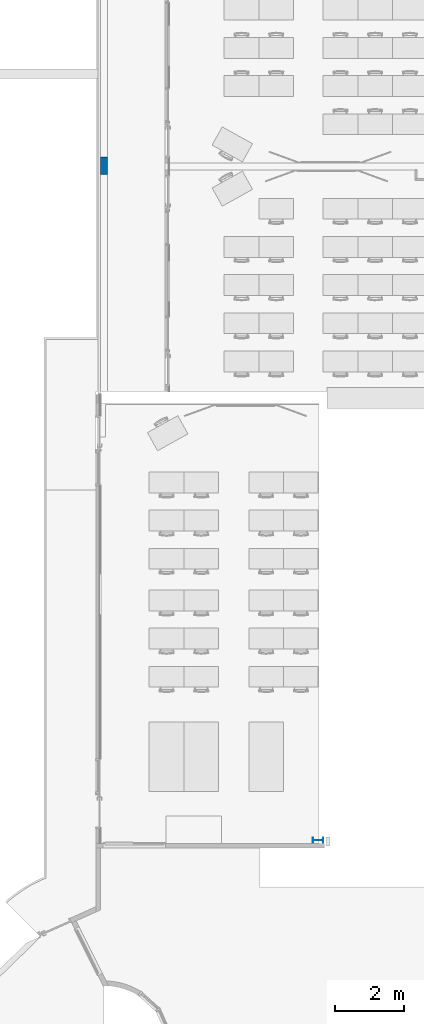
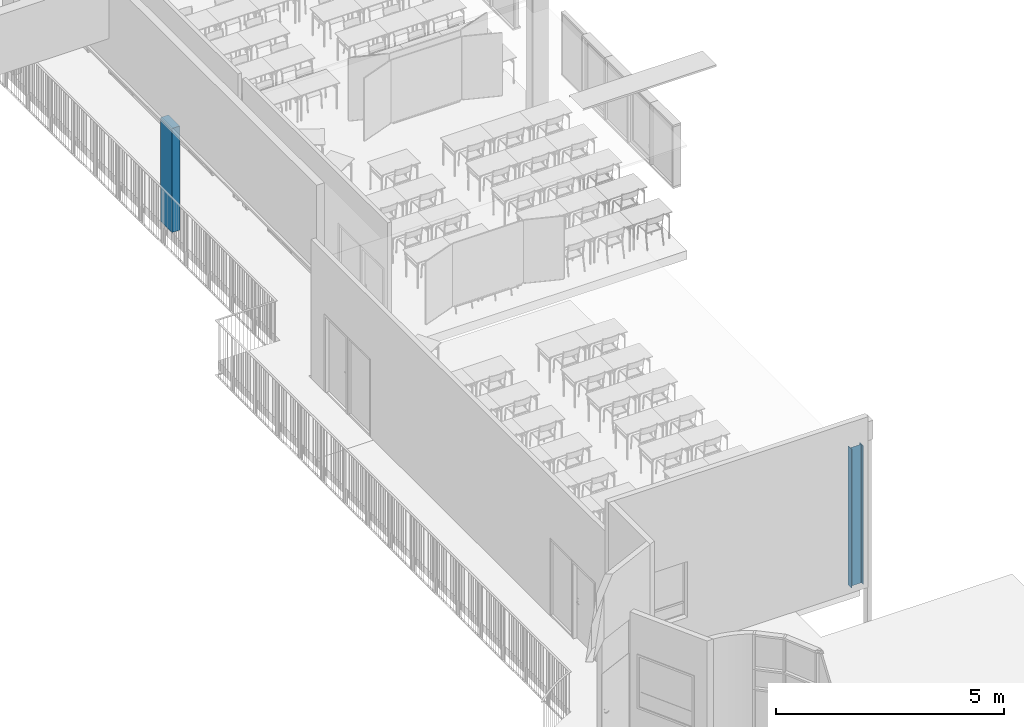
# One storey, part 2 of 44: 3 columns.
"""IFC2X3 building model written with IfcOpenShell, lengths in centimetres."""

from ifc_helpers import new_model, entity, si_unit, converted_unit, derived_unit, direction, frame, frame_2d, origin, place, context, subcontext, project, spatial, polyline, circle_curve, parameter, trimmed, segment, composite_curve, rectangle, outline, extrude, source, transform, mapped, material, type_object, type_shapes, element, save


model = new_model("IFC2X3")

# Units and contexts
model_context = context("Model", 3, precision=0.001, world=origin(), true_north=direction((6.12303176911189e-17, 1.0)))
body_context = subcontext(model_context, "Body", "Model", "MODEL_VIEW")
ifc_project = project(units=[si_unit("LENGTHUNIT", "METRE", prefix="CENTI"), si_unit("AREAUNIT", "SQUARE_METRE"), si_unit("VOLUMEUNIT", "CUBIC_METRE"), converted_unit("PLANEANGLEUNIT", "DEGREE", entity("IfcRatioMeasure", 0.0174532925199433), si_unit("PLANEANGLEUNIT", "RADIAN"), dimensions=[0, 0, 0, 0, 0, 0, 0]), si_unit("MASSUNIT", "GRAM", prefix="KILO"), si_unit("TIMEUNIT", "SECOND"), si_unit("FREQUENCYUNIT", "HERTZ"), si_unit("THERMODYNAMICTEMPERATUREUNIT", "DEGREE_CELSIUS"), derived_unit("THERMALTRANSMITTANCEUNIT", [(si_unit("MASSUNIT", "GRAM", prefix="KILO"), 1), (si_unit("THERMODYNAMICTEMPERATUREUNIT", "KELVIN"), -1), (si_unit("TIMEUNIT", "SECOND"), -3)]), derived_unit("VOLUMETRICFLOWRATEUNIT", [(si_unit("LENGTHUNIT", "METRE"), 3), (si_unit("TIMEUNIT", "SECOND"), -1)]), si_unit("ELECTRICCURRENTUNIT", "AMPERE"), si_unit("ELECTRICVOLTAGEUNIT", "VOLT"), si_unit("POWERUNIT", "WATT"), si_unit("FORCEUNIT", "NEWTON", prefix="KILO"), si_unit("ILLUMINANCEUNIT", "LUX"), si_unit("LUMINOUSFLUXUNIT", "LUMEN"), si_unit("LUMINOUSINTENSITYUNIT", "CANDELA"), derived_unit("USERDEFINED", [(si_unit("MASSUNIT", "GRAM", prefix="KILO"), -1), (si_unit("LENGTHUNIT", "METRE"), -2), (si_unit("TIMEUNIT", "SECOND"), 3), (si_unit("LUMINOUSFLUXUNIT", "LUMEN"), 1)]), derived_unit("LINEARVELOCITYUNIT", [(si_unit("LENGTHUNIT", "METRE"), 1), (si_unit("TIMEUNIT", "SECOND"), -1)]), si_unit("PRESSUREUNIT", "PASCAL"), derived_unit("USERDEFINED", [(si_unit("LENGTHUNIT", "METRE"), -2), (si_unit("MASSUNIT", "GRAM", prefix="KILO"), 1), (si_unit("TIMEUNIT", "SECOND"), -2)])], contexts=[model_context])

# Site, building, storey
site_placement = place(None, frame((8.62739174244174, -249.285249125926, 0.0)))
site = spatial("IfcSite", under=ifc_project, at=site_placement, Name="Default", CompositionType="ELEMENT")
building_placement = place(site_placement, origin())
building = spatial("IfcBuilding", under=site, at=building_placement, CompositionType="ELEMENT")
storey_placement = place(building_placement, frame((0.0, 0.0, 343.0)))
storey = spatial("IfcBuildingStorey", under=building, at=storey_placement, Name="R+1", CompositionType="ELEMENT", Elevation=343.0)

# Columns
ifc_material_1 = material(Name="Acier, 45-345")
column_type_1 = type_object("IfcColumnType", Name="IPE 300", PredefinedType="COLUMN", material=ifc_material_1)
shared_shape_1 = source(origin(), body_context, "Body", "SweptSolid", [
    extrude(outline(composite_curve([segment(polyline([(14.1, -7.5), (15.0, -7.5)]), True, "CONTINUOUS"), segment(polyline([(15.0, -7.5), (15.0, 7.5)]), True, "CONTINUOUS"), segment(polyline([(15.0, 7.5), (14.1, 7.5)]), True, "CONTINUOUS"), segment(polyline([(14.1, 7.5), (14.1, 1.8)]), True, "CONTINUOUS"), segment(trimmed(circle_curve(frame_2d((12.6, 1.8), x_axis=(1.0, 0.0)), 1.5), [parameter(270.0)], [parameter(0.0)], True, "PARAMETER"), False, "CONTINUOUS"), segment(polyline([(12.6, 0.300000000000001), (-12.6, 0.300000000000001)]), True, "CONTINUOUS"), segment(trimmed(circle_curve(frame_2d((-12.6, 1.8), x_axis=(0.0, -1.0)), 1.5), [parameter(270.0)], [parameter(0.0)], True, "PARAMETER"), False, "CONTINUOUS"), segment(polyline([(-14.1, 1.8), (-14.1, 7.5)]), True, "CONTINUOUS"), segment(polyline([(-14.1, 7.5), (-15.0, 7.5)]), True, "CONTINUOUS"), segment(polyline([(-15.0, 7.5), (-15.0, -7.5)]), True, "CONTINUOUS"), segment(polyline([(-15.0, -7.5), (-14.1, -7.5)]), True, "CONTINUOUS"), segment(polyline([(-14.1, -7.5), (-14.1, -1.8)]), True, "CONTINUOUS"), segment(trimmed(circle_curve(frame_2d((-12.6, -1.8), x_axis=(-1.0, 0.0)), 1.5), [parameter(269.999999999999)], [parameter(0.0)], True, "PARAMETER"), False, "CONTINUOUS"), segment(polyline([(-12.6, -0.3), (12.6, -0.3)]), True, "CONTINUOUS"), segment(trimmed(circle_curve(frame_2d((12.6, -1.8), x_axis=(0.0, 1.0)), 1.5), [parameter(270.0)], [parameter(0.0)], True, "PARAMETER"), False, "CONTINUOUS"), segment(polyline([(14.1, -1.8), (14.1, -7.5)]), True, "CONTINUOUS")], self_intersect=False)), frame((0.0, 0.0, 343.0), z_axis=(0.0, 0.0, 1.0), x_axis=(0.0, -1.0, 0.0)), (0.0, 0.0, 1.0), 372.0),
])
type_shapes(column_type_1, [shared_shape_1])
for number, where, z_axis, x_axis in (
    (1, (3660.90000000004, 1361.98020806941, -343.0), (0.0, 0.0, 1.0), (0.0, 1.0, 0.0)),
    (2, (3660.90000000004, 1361.98020806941, -343.0), (0.0, 0.0, 1.0), (0.0, 1.0, 0.0)),
):
    element("IfcColumn", number, at=place(storey_placement, frame(where, z_axis=z_axis, x_axis=x_axis)), inside=storey, type_object=column_type_1, material=ifc_material_1, Name="IPE-300-150:IPE 300", ObjectType="IPE 300", context=body_context, shape_type="MappedRepresentation", body=[
        mapped(shared_shape_1, transform((0.0, 0.0, 0.0), scale=1.0)),
    ])
ifc_material_2 = material(Name="Béton, coulé sur place, gris")
column_type_2 = type_object("IfcColumnType", Name="Diamètre de 200 mm", PredefinedType="COLUMN", material=ifc_material_2)
shared_shape_2 = source(origin(), body_context, "Body", "SweptSolid", [
    extrude(rectangle(XDim=49.9999999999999, YDim=20.0, at=frame_2d((-1.77635683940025e-15, 0.0), x_axis=(1.0, 0.0))), frame((0.0, 0.0, 343.0), z_axis=(0.0, 0.0, 1.0), x_axis=(0.0, -1.0, 0.0)), (0.0, 0.0, 1.0), 279.0),
])
type_shapes(column_type_2, [shared_shape_2])
column_placement = place(storey_placement, frame((3043.90482779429, 3305.18519336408, -343.0), z_axis=(0.0, 0.0, 1.0), x_axis=(-1.0, 0.0, 0.0)))
element("IfcColumn", 3, at=column_placement, inside=storey, type_object=column_type_2, material=ifc_material_2, Name="Poteau porteur rectangle:Diamètre de 200 mm", ObjectType="Diamètre de 200 mm", context=body_context, shape_type="MappedRepresentation", body=[
    mapped(shared_shape_2, transform((0.0, 0.0, 0.0), scale=1.0)),
])

save(model, "model.ifc")
